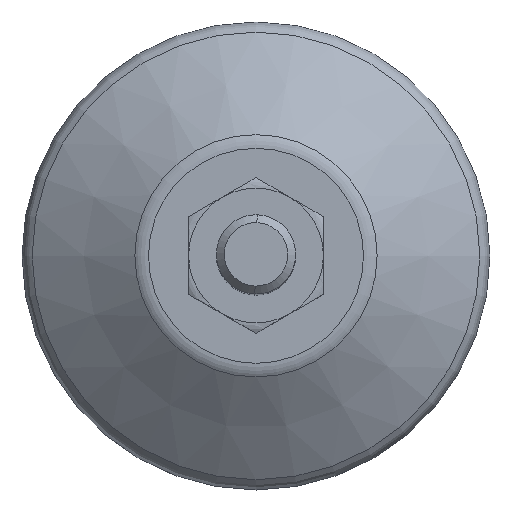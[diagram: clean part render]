
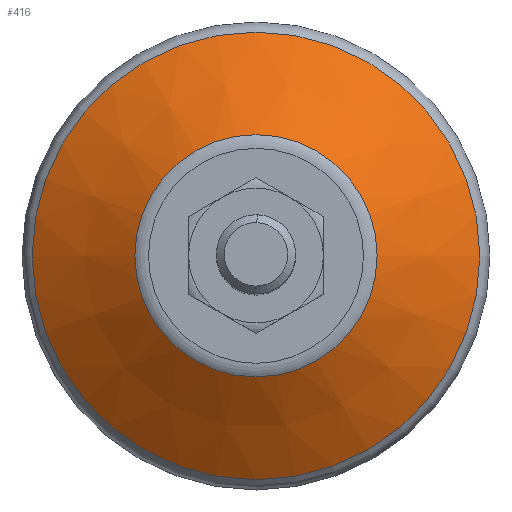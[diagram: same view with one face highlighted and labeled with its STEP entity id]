
A CAD part, top view. The second image highlights one B-rep face of the part: STEP entity #416.
In plain terms, the highlighted conical face has half-angle 55.008 degrees and reference radius 15.275 mm.
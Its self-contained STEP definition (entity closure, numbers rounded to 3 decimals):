
#416=ADVANCED_FACE('',(#707,#708),#709,.T.);
#707=FACE_BOUND('',#985,.T.);
#708=FACE_OUTER_BOUND('',#986,.T.);
#709=CONICAL_SURFACE('',#987,15.275,0.96);
#985=EDGE_LOOP('',(#1634));
#986=EDGE_LOOP('',(#1635));
#987=AXIS2_PLACEMENT_3D('',#1636,#1637,#1638);
#1634=ORIENTED_EDGE('',*,*,#1934,.T.);
#1635=ORIENTED_EDGE('',*,*,#1932,.F.);
#1636=CARTESIAN_POINT('',(0.0,0.0,17.458));
#1637=DIRECTION('',(-0.0,0.0,-1.0));
#1638=DIRECTION('',(-1.0,0.0,0.0));
#1932=EDGE_CURVE('',#2289,#2289,#2290,.T.);
#1934=EDGE_CURVE('',#2292,#2292,#2293,.T.);
#2289=VERTEX_POINT('',#3150);
#2290=CIRCLE('',#3151,28.22);
#2292=VERTEX_POINT('',#3153);
#2293=CIRCLE('',#3154,15.275);
#3150=CARTESIAN_POINT('',(-28.22,0.0,8.396));
#3151=AXIS2_PLACEMENT_3D('',#3449,#3450,#3451);
#3153=CARTESIAN_POINT('',(-15.275,0.0,17.458));
#3154=AXIS2_PLACEMENT_3D('',#3452,#3453,#3454);
#3449=CARTESIAN_POINT('',(0.0,0.0,8.396));
#3450=DIRECTION('',(0.0,0.0,-1.0));
#3451=DIRECTION('',(-1.0,0.0,0.0));
#3452=CARTESIAN_POINT('',(0.0,0.0,17.458));
#3453=DIRECTION('',(0.0,0.0,-1.0));
#3454=DIRECTION('',(-1.0,0.0,0.0));
